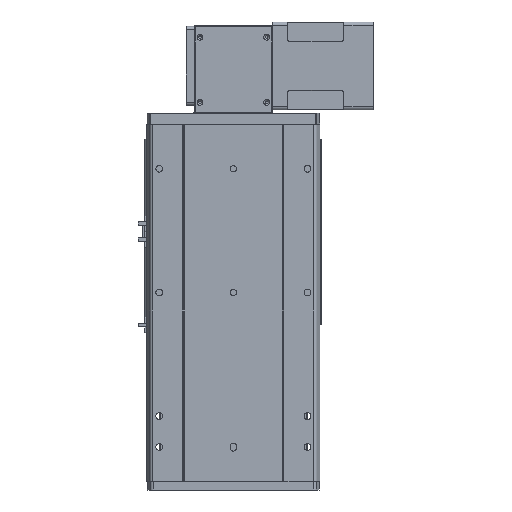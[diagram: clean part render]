
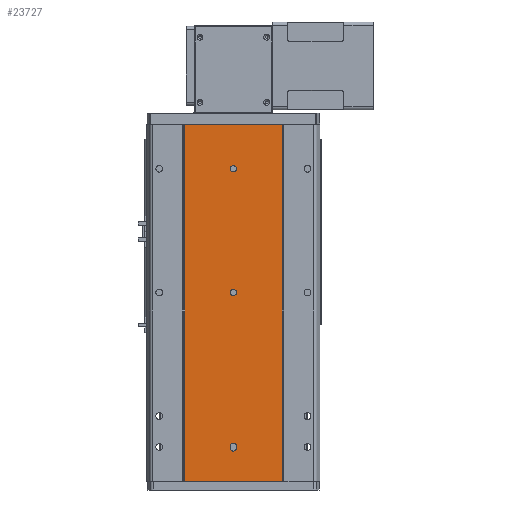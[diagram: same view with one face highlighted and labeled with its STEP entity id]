
A CAD part, front view. The second image highlights one B-rep face of the part: STEP entity #23727.
In plain terms, the highlighted planar face has unit normal (0, -1, 0).
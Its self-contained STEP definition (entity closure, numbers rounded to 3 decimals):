
#61 = CIRCLE ( 'NONE', #6214, 5. ) ;
#452 = VERTEX_POINT ( 'NONE', #6001 ) ;
#507 = VECTOR ( 'NONE', #17146, 1000. ) ;
#745 = DIRECTION ( 'NONE',  ( 1., 0., 0. ) ) ;
#813 = CARTESIAN_POINT ( 'NONE',  ( 5., 1.5, -523. ) ) ;
#1242 = EDGE_LOOP ( 'NONE', ( #9838, #24053, #11044, #20687, #18706 ) ) ;
#1390 = VECTOR ( 'NONE', #22207, 1000. ) ;
#1736 = VERTEX_POINT ( 'NONE', #16340 ) ;
#1759 = CARTESIAN_POINT ( 'NONE',  ( -5., 1.5, -577. ) ) ;
#1783 = ORIENTED_EDGE ( 'NONE', *, *, #5504, .T. ) ;
#2021 = EDGE_CURVE ( 'NONE', #8228, #20370, #20161, .T. ) ;
#2069 = CARTESIAN_POINT ( 'NONE',  ( 0., 1.5, -66.5 ) ) ;
#2145 = CARTESIAN_POINT ( 'NONE',  ( -79., 1.5, -577. ) ) ;
#2330 = AXIS2_PLACEMENT_3D ( 'NONE', #23578, #10137, #25833 ) ;
#2454 = CARTESIAN_POINT ( 'NONE',  ( 0., 1.5, -266.5 ) ) ;
#2514 = ORIENTED_EDGE ( 'NONE', *, *, #17366, .T. ) ;
#2674 = FACE_BOUND ( 'NONE', #26748, .T. ) ;
#4007 = CIRCLE ( 'NONE', #26718, 5. ) ;
#4111 = EDGE_CURVE ( 'NONE', #20370, #4997, #25291, .T. ) ;
#4307 = AXIS2_PLACEMENT_3D ( 'NONE', #28046, #16688, #745 ) ;
#4378 = CARTESIAN_POINT ( 'NONE',  ( -79., 1.5, 0. ) ) ;
#4997 = VERTEX_POINT ( 'NONE', #13336 ) ;
#5504 = EDGE_CURVE ( 'NONE', #9366, #10713, #61, .T. ) ;
#5908 = CIRCLE ( 'NONE', #11918, 5. ) ;
#6001 = CARTESIAN_POINT ( 'NONE',  ( 0., 1.5, -528. ) ) ;
#6010 = EDGE_CURVE ( 'NONE', #15637, #1736, #7707, .T. ) ;
#6060 = LINE ( 'NONE', #21856, #6404 ) ;
#6136 = DIRECTION ( 'NONE',  ( 0., 1., 0. ) ) ;
#6163 = FACE_OUTER_BOUND ( 'NONE', #19739, .T. ) ;
#6214 = AXIS2_PLACEMENT_3D ( 'NONE', #21956, #13009, #8451 ) ;
#6319 = CARTESIAN_POINT ( 'NONE',  ( -79., 1.5, 0. ) ) ;
#6404 = VECTOR ( 'NONE', #15080, 1000. ) ;
#7707 = LINE ( 'NONE', #1759, #12579 ) ;
#8011 = CARTESIAN_POINT ( 'NONE',  ( 0., 1.5, -76.5 ) ) ;
#8228 = VERTEX_POINT ( 'NONE', #24593 ) ;
#8267 = PLANE ( 'NONE',  #12366 ) ;
#8272 = DIRECTION ( 'NONE',  ( 1., 0., 0. ) ) ;
#8451 = DIRECTION ( 'NONE',  ( 1., 0., 0. ) ) ;
#8602 = VECTOR ( 'NONE', #11196, 1000. ) ;
#8966 = DIRECTION ( 'NONE',  ( 1., 0., 0. ) ) ;
#9301 = ORIENTED_EDGE ( 'NONE', *, *, #2021, .F. ) ;
#9366 = VERTEX_POINT ( 'NONE', #2069 ) ;
#9692 = CARTESIAN_POINT ( 'NONE',  ( 79., 1.5, -577. ) ) ;
#9838 = ORIENTED_EDGE ( 'NONE', *, *, #6010, .T. ) ;
#10137 = DIRECTION ( 'NONE',  ( 0., 1., 0. ) ) ;
#10490 = DIRECTION ( 'NONE',  ( 0., -1., 0. ) ) ;
#10663 = CIRCLE ( 'NONE', #26144, 5. ) ;
#10678 = CARTESIAN_POINT ( 'NONE',  ( -79., 1.5, -577. ) ) ;
#10713 = VERTEX_POINT ( 'NONE', #8011 ) ;
#10731 = EDGE_CURVE ( 'NONE', #452, #15637, #4007, .T. ) ;
#11044 = ORIENTED_EDGE ( 'NONE', *, *, #16633, .T. ) ;
#11196 = DIRECTION ( 'NONE',  ( 0., 0., 1. ) ) ;
#11918 = AXIS2_PLACEMENT_3D ( 'NONE', #22397, #22767, #8966 ) ;
#11926 = VERTEX_POINT ( 'NONE', #2454 ) ;
#12366 = AXIS2_PLACEMENT_3D ( 'NONE', #10678, #10490, #21877 ) ;
#12405 = FACE_BOUND ( 'NONE', #1242, .T. ) ;
#12563 = CIRCLE ( 'NONE', #2330, 5. ) ;
#12579 = VECTOR ( 'NONE', #21923, 1000. ) ;
#12597 = VERTEX_POINT ( 'NONE', #9692 ) ;
#12607 = ORIENTED_EDGE ( 'NONE', *, *, #26414, .T. ) ;
#12801 = AXIS2_PLACEMENT_3D ( 'NONE', #21819, #19774, #26512 ) ;
#13009 = DIRECTION ( 'NONE',  ( 0., 1., 0. ) ) ;
#13336 = CARTESIAN_POINT ( 'NONE',  ( 79., 1.5, 0. ) ) ;
#14690 = CIRCLE ( 'NONE', #4307, 5. ) ;
#14903 = EDGE_CURVE ( 'NONE', #10713, #9366, #14690, .T. ) ;
#15024 = EDGE_LOOP ( 'NONE', ( #20316, #1783 ) ) ;
#15080 = DIRECTION ( 'NONE',  ( 1., 0., 0. ) ) ;
#15637 = VERTEX_POINT ( 'NONE', #28399 ) ;
#16029 = ORIENTED_EDGE ( 'NONE', *, *, #4111, .F. ) ;
#16340 = CARTESIAN_POINT ( 'NONE',  ( -5., 1.5, -520. ) ) ;
#16497 = VERTEX_POINT ( 'NONE', #813 ) ;
#16633 = EDGE_CURVE ( 'NONE', #26966, #16497, #19422, .T. ) ;
#16688 = DIRECTION ( 'NONE',  ( 0., 1., 0. ) ) ;
#17146 = DIRECTION ( 'NONE',  ( 0., 0., -1. ) ) ;
#17366 = EDGE_CURVE ( 'NONE', #8228, #12597, #6060, .T. ) ;
#17703 = CARTESIAN_POINT ( 'NONE',  ( 79., 1.5, -577. ) ) ;
#18011 = EDGE_CURVE ( 'NONE', #28408, #11926, #22796, .T. ) ;
#18323 = ORIENTED_EDGE ( 'NONE', *, *, #18359, .T. ) ;
#18359 = EDGE_CURVE ( 'NONE', #11926, #28408, #12563, .T. ) ;
#18640 = CARTESIAN_POINT ( 'NONE',  ( 0., 1.5, -276.5 ) ) ;
#18706 = ORIENTED_EDGE ( 'NONE', *, *, #10731, .T. ) ;
#19422 = LINE ( 'NONE', #23905, #507 ) ;
#19572 = DIRECTION ( 'NONE',  ( 1., 0., 0. ) ) ;
#19739 = EDGE_LOOP ( 'NONE', ( #16029, #9301, #2514, #12607 ) ) ;
#19774 = DIRECTION ( 'NONE',  ( 0., 1., 0. ) ) ;
#19849 = ORIENTED_EDGE ( 'NONE', *, *, #18011, .T. ) ;
#20161 = LINE ( 'NONE', #2145, #8602 ) ;
#20316 = ORIENTED_EDGE ( 'NONE', *, *, #14903, .T. ) ;
#20370 = VERTEX_POINT ( 'NONE', #4378 ) ;
#20473 = EDGE_CURVE ( 'NONE', #16497, #452, #5908, .T. ) ;
#20687 = ORIENTED_EDGE ( 'NONE', *, *, #20473, .T. ) ;
#21819 = CARTESIAN_POINT ( 'NONE',  ( 0., 1.5, -271.5 ) ) ;
#21856 = CARTESIAN_POINT ( 'NONE',  ( -79., 1.5, -577. ) ) ;
#21877 = DIRECTION ( 'NONE',  ( 1., 0., 0. ) ) ;
#21923 = DIRECTION ( 'NONE',  ( 0., 0., 1. ) ) ;
#21956 = CARTESIAN_POINT ( 'NONE',  ( 0., 1.5, -71.5 ) ) ;
#22058 = LINE ( 'NONE', #17703, #1390 ) ;
#22207 = DIRECTION ( 'NONE',  ( 0., 0., 1. ) ) ;
#22397 = CARTESIAN_POINT ( 'NONE',  ( 0., 1.5, -523. ) ) ;
#22767 = DIRECTION ( 'NONE',  ( 0., 1., 0. ) ) ;
#22796 = CIRCLE ( 'NONE', #12801, 5. ) ;
#23578 = CARTESIAN_POINT ( 'NONE',  ( 0., 1.5, -271.5 ) ) ;
#23727 = ADVANCED_FACE ( 'NONE', ( #24745, #6163, #2674, #12405 ), #8267, .T. ) ;
#23905 = CARTESIAN_POINT ( 'NONE',  ( 5., 1.5, -577. ) ) ;
#23968 = CARTESIAN_POINT ( 'NONE',  ( 0., 1.5, -523. ) ) ;
#24053 = ORIENTED_EDGE ( 'NONE', *, *, #24300, .T. ) ;
#24300 = EDGE_CURVE ( 'NONE', #1736, #26966, #10663, .T. ) ;
#24593 = CARTESIAN_POINT ( 'NONE',  ( -79., 1.5, -577. ) ) ;
#24745 = FACE_BOUND ( 'NONE', #15024, .T. ) ;
#25291 = LINE ( 'NONE', #6319, #28445 ) ;
#25360 = CARTESIAN_POINT ( 'NONE',  ( 5., 1.5, -520. ) ) ;
#25833 = DIRECTION ( 'NONE',  ( 1., 0., 0. ) ) ;
#26144 = AXIS2_PLACEMENT_3D ( 'NONE', #26251, #28595, #28506 ) ;
#26251 = CARTESIAN_POINT ( 'NONE',  ( 0., 1.5, -520. ) ) ;
#26414 = EDGE_CURVE ( 'NONE', #12597, #4997, #22058, .T. ) ;
#26512 = DIRECTION ( 'NONE',  ( 1., 0., 0. ) ) ;
#26718 = AXIS2_PLACEMENT_3D ( 'NONE', #23968, #6136, #19572 ) ;
#26748 = EDGE_LOOP ( 'NONE', ( #19849, #18323 ) ) ;
#26966 = VERTEX_POINT ( 'NONE', #25360 ) ;
#28046 = CARTESIAN_POINT ( 'NONE',  ( 0., 1.5, -71.5 ) ) ;
#28399 = CARTESIAN_POINT ( 'NONE',  ( -5., 1.5, -523. ) ) ;
#28408 = VERTEX_POINT ( 'NONE', #18640 ) ;
#28445 = VECTOR ( 'NONE', #8272, 1000. ) ;
#28506 = DIRECTION ( 'NONE',  ( 1., 0., 0. ) ) ;
#28595 = DIRECTION ( 'NONE',  ( 0., 1., 0. ) ) ;
